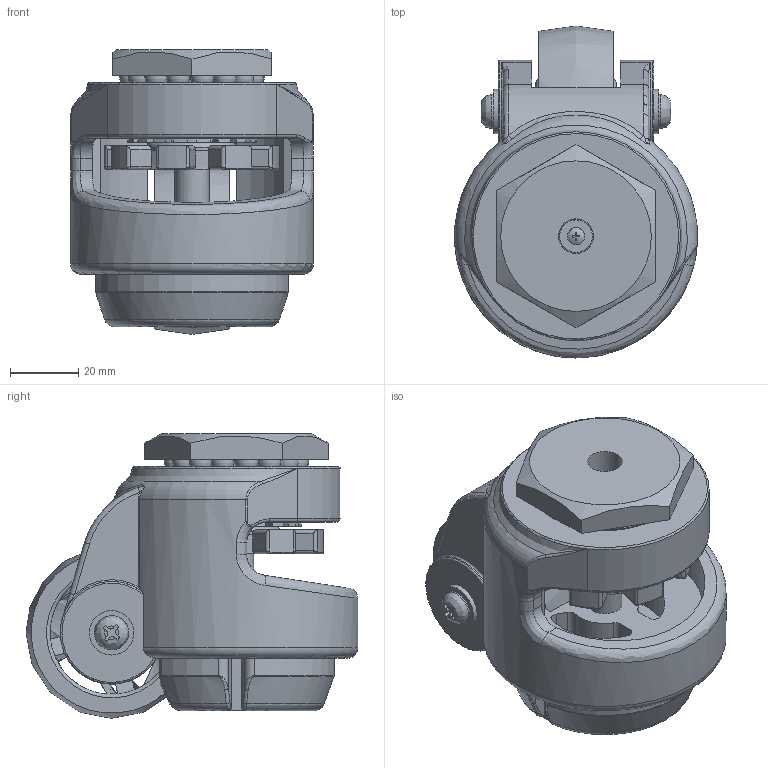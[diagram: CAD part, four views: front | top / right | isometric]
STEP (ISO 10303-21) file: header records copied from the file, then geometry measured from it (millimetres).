
FILE_DESCRIPTION((''),'2;1');
FILE_NAME('E:\catalogue and flyer\Profile catalogue 2015\Accessories- FM & wheel\foot mout & wheel stp file\AC-300S.stp','2016-04-08T11:42:28',('h029'),(''),'Autodesk Inventor 11','Autodesk Inventor 11','');
FILE_SCHEMA(('AUTOMOTIVE_DESIGN { 1 0 10303 214 1 1 1 1 }'));
Length unit declared in the file: millimetre
Products named in the file (3): AC-300S; AC-300S_1; AC-300S_2
Assembly tree (2 placements, depth 2):
  AC-300S
    AC-300S_1
    AC-300S_2
Bounding box: 71 x 97 x 83.2 mm (x, y, z)
Volume: 215654.9 mm3; surface area: 72475.8 mm2
Topology: 4 solids, 7 shells, 673 faces, 1865 edges, 1165 vertices
Faces by surface type: plane 272, cylinder 216, bspline 103, torus 35, sphere 32, cone 15
Full cylindrical faces by diameter (mm): 2.05 x1, 2.5 x2, 3 x1, 5 x1, 6.647 x1, 8 x2, 8.7 x1, 10 x5, 10.106 x1, 10.2 x1, 10.5 x2, 12 x1, 13 x2, 18.917 x1, 19 x2, 20 x1, 23.5 x1, 25 x2, 25.5 x1, 36 x2, 38 x1, 41 x1
Entity records: 27885 total; most frequent: CARTESIAN_POINT 11764, DIRECTION 3387, ORIENTED_EDGE 3314, EDGE_CURVE 1657, AXIS2_PLACEMENT_3D 1378, VERTEX_POINT 1082, EDGE_LOOP 812, CIRCLE 707
